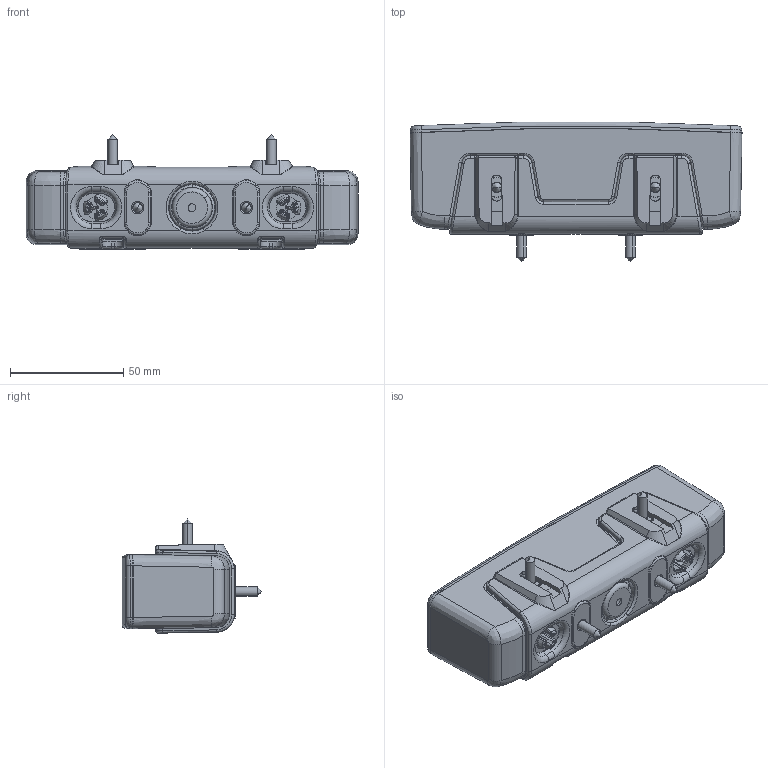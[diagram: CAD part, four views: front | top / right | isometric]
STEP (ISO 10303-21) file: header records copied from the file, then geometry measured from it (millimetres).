
FILE_DESCRIPTION (( 'STEP AP214' ), '1' );
FILE_NAME ('LM_WX27.STEP', '2014-04-14T08:49:26', ( 'Marcin' ), ( '' ), 'SwSTEP 2.0', 'SolidWorks 2013', '' );
FILE_SCHEMA (( 'AUTOMOTIVE_DESIGN' ));
Length unit declared in the file: millimetre
Products named in the file (6): Kabeldurchführung; Rückseitige_Befestigung_01; Kliphalter_rückseitig; Gehäuse_Lichtmodul; LED-MARTIN_Lichtmodul_WX27; WX27_Lichtmodul
Assembly tree (8 placements, depth 2):
  WX27_Lichtmodul
    LED-MARTIN_Lichtmodul_WX27
    Gehäuse_Lichtmodul
    Kliphalter_rückseitig
    Rückseitige_Befestigung_01  x4
    Kabeldurchführung
Bounding box: 146.5 x 61.73 x 50.45 mm (x, y, z)
Volume: 331358.3 mm3; surface area: 68691.8 mm2
Topology: 8 solids, 8 shells, 1564 faces, 3887 edges, 2332 vertices
Faces by surface type: bspline 491, cylinder 429, plane 368, torus 161, cone 95, sphere 20
Entity records: 56604 total; most frequent: CARTESIAN_POINT 25853, ORIENTED_EDGE 7254, DIRECTION 5415, EDGE_CURVE 3627, VERTEX_POINT 2175, AXIS2_PLACEMENT_3D 2123, EDGE_LOOP 1494, FACE_OUTER_BOUND 1468
